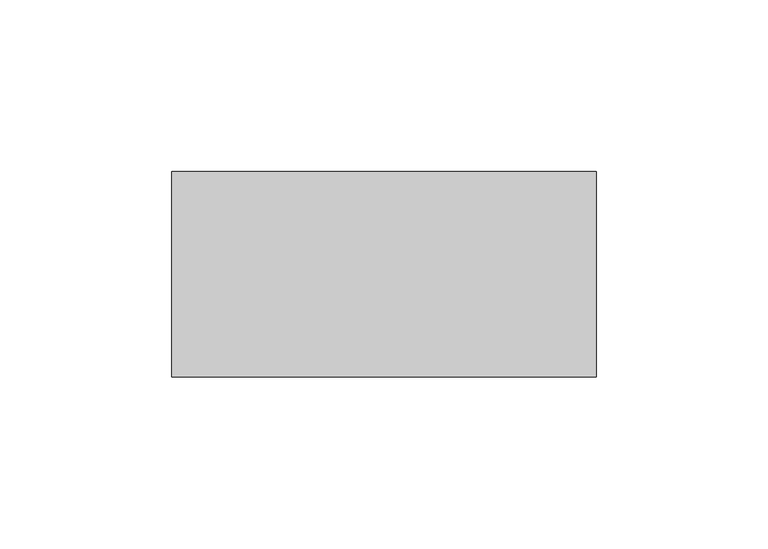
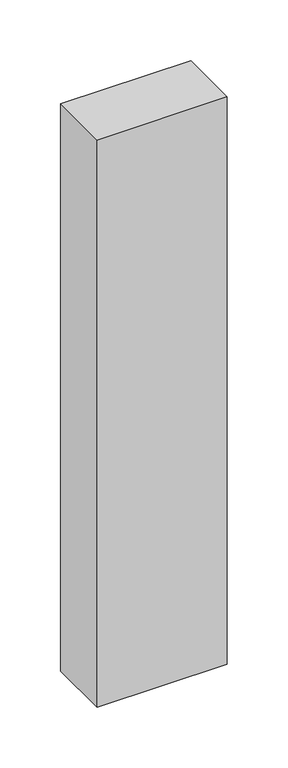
"""IFC4 building model written with IfcOpenShell, lengths in millimetres: plate geometry, Системная панель : Алюкобонд серый."""

from ifc_helpers import new_model, si_unit, origin, origin_with_axes, place, context, project, spatial, polyline, outline, extrude, source, transform, mapped, element, save


def plate_624f5ee0(model_context):
    return source(origin(), model_context, "Body", "SweptSolid", [
        extrude(outline(polyline([(61.9419209, -10.5), (-61.9419209, -10.5), (-61.9419209, 49.5), (61.9419209, 49.5), (61.9419209, -10.5)])), origin_with_axes(), (0.0, 0.0, 1.0), 570.0),
    ])


if __name__ == "__main__":
    model = new_model("IFC4")
    model_context = context("Model", 3, world=origin())
    ifc_project = project(units=[si_unit("LENGTHUNIT", "METRE", prefix="MILLI")], contexts=[model_context])
    site = spatial("IfcSite", under=ifc_project)
    building = spatial("IfcBuilding", under=site)
    placement = place(None, origin())
    plate_shape = plate_624f5ee0(model_context)
    element("IfcPlate", 1, ObjectType="Системная панель : Алюкобонд серый", at=placement, inside=building, context=model_context, shape_type="MappedRepresentation", body=[
        mapped(plate_shape, transform((0.0, 0.0, 0.0), x_axis=(1.0, 0.0, 0.0), y_axis=(0.0, 1.0, 0.0), z_axis=(0.0, 0.0, 1.0))),
    ])
    save(model, "model.ifc")
